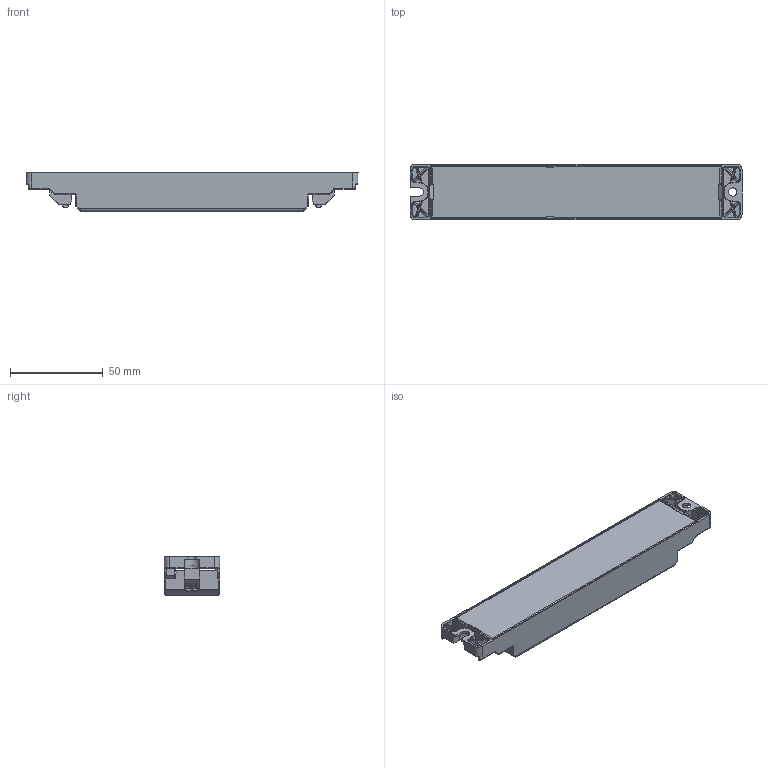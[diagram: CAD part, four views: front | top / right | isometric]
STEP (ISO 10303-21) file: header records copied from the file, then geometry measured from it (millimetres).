
FILE_DESCRIPTION((''),'2;1');
FILE_NAME('15014051Z_DATAMEC_179X30X21','2020-07-21T15:42:17',('elon.guo'),(''),'CREO PARAMETRIC BY PTC INC, 2019164','CREO PARAMETRIC BY PTC INC, 2019164','');
FILE_SCHEMA(('CONFIG_CONTROL_DESIGN'));
Products named in the file (1): 15014051Z_DATAMEC_179X30X21
Bounding box: 179.2 x 30 x 21 mm (x, y, z)
Volume: 28358 mm3; surface area: 46765.1 mm2
Topology: 2 solids, 2 shells, 1686 faces, 4423 edges, 2574 vertices
Faces by surface type: cylinder 706, plane 529, bspline 200, sphere 152, torus 69, cone 30
Entity records: 63212 total; most frequent: CARTESIAN_POINT 24262, ORIENTED_EDGE 8532, DIRECTION 7657, EDGE_CURVE 4266, AXIS2_PLACEMENT_3D 2725, VERTEX_POINT 2574, VECTOR 2207, LINE 2207
